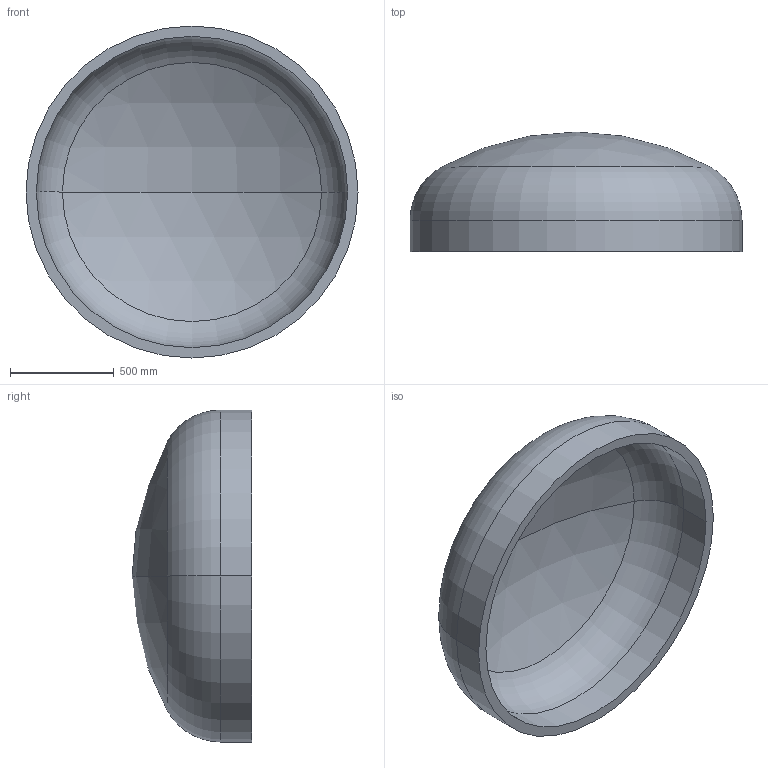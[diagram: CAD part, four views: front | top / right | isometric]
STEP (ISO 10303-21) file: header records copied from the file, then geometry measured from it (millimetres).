
FILE_DESCRIPTION (( 'STEP AP203' ), '1' );
FILE_NAME ('DIN 28013 Korbbogenform_-_Boden DIN 28013 - 1600 x 150 - I - s=50.step', '2016-07-01T11:19:47', ( '' ), ( '' ), 'SwSTEP 2.0', 'SolidWorks 2013', '' );
FILE_SCHEMA (( 'CONFIG_CONTROL_DESIGN' ));
Length unit declared in the file: millimetre
Products named in the file (1): DIN 28013 Korbbogenform_-_Boden DIN 28013 - 1600 x 150 - I - s=50
Bounding box: 1600 x 576.56 x 1600 mm (x, y, z)
Volume: 170038020.1 mm3; surface area: 7050228.4 mm2
Topology: 1 solids, 1 shells, 13 faces, 24 edges, 14 vertices
Faces by surface type: torus 4, cylinder 4, sphere 4, plane 1
Entity records: 407 total; most frequent: DIRECTION 72, CARTESIAN_POINT 52, ORIENTED_EDGE 48, AXIS2_PLACEMENT_3D 34, EDGE_CURVE 24, CIRCLE 20, EDGE_LOOP 14, VERTEX_POINT 14
